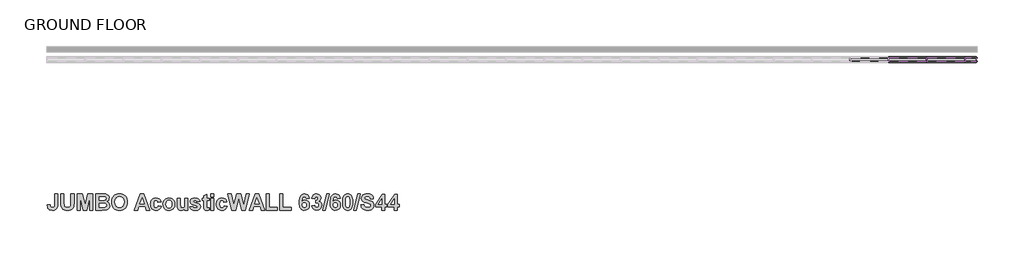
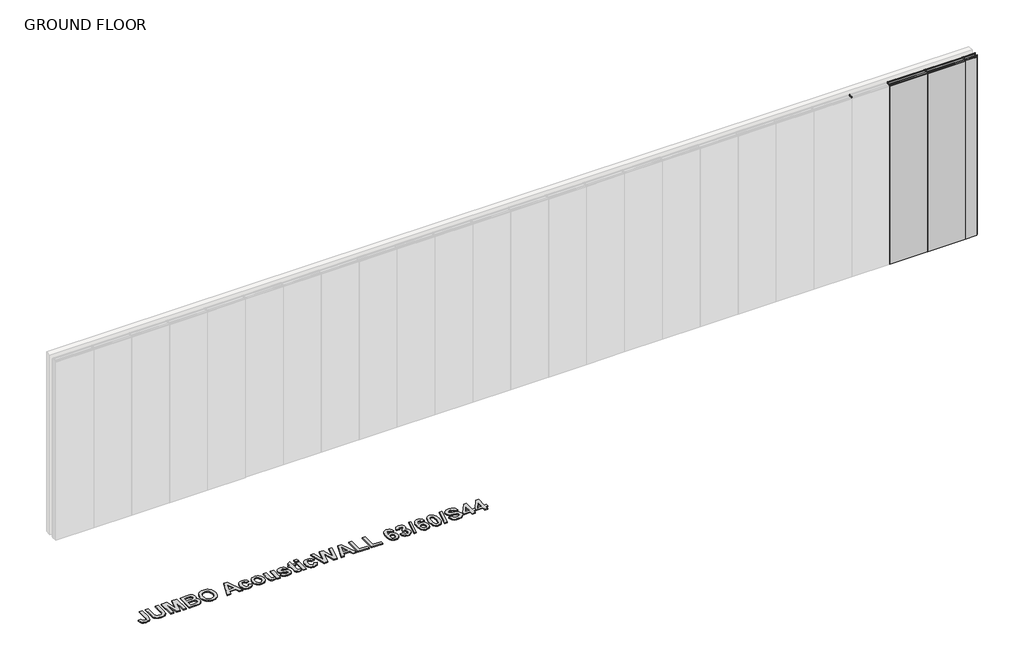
# One storey, part 2 of 2: 12 members, 3 plates, 1 proxy.
"""IFC4 building model written with IfcOpenShell, lengths in millimetres."""

from ifc_helpers import new_model, si_unit, origin, origin_with_axes, place, context, project, spatial, polyline, outline, extrude, transform, mapped, element, save
from components import rectangular_mullion_stud_mullion_63mm_b2ef130e, rectangular_mullion_stud_mullion_63mm_af775e70, rectangular_mullion_stud_mullion_63mm_c22ba0a2, rectangular_mullion_stud_mullion_63mm_ab3eab4e, rectangular_mullion_stud_mullion_63mm_06861ceb, rectangular_mullion_stud_mullion_63mm_08592bac, plate_2_layer_drywall_panels_2_layer_15mm_drywall_panels_7b1b0b35, plate_2_layer_drywall_panels_2_layer_15mm_drywall_panels_d108bd86

model = new_model("IFC4")

# Units and contexts
model_context = context("Model", 3, world=origin())
ifc_project = project(units=[si_unit("LENGTHUNIT", "METRE", prefix="MILLI")], contexts=[model_context])

# Site, building, storey
site = spatial("IfcSite", under=ifc_project)
building = spatial("IfcBuilding", under=site)
storey = spatial("IfcBuildingStorey", under=building, Name="GROUND FLOOR", Elevation=0.0)

# Proxy
placement = place(None, origin())
element("IfcBuildingElementProxy", 1, Name="600mm Arial", ObjectType="600mm Arial", at=placement, inside=storey, context=model_context, shape_type="SweptSolid", body=[
    extrude(outline(polyline([(61762.9500241, -39369.743976), (61811.5338051, -39369.743976), (61811.5338051, -39530.994051), (61810.1104521, -39558.9866592), (61805.8403932, -39579.7043522), (61795.149431, -39599.7261838), (61778.2589759, -39615.3830664), (61755.0741377, -39625.4888724), (61725.5000263, -39628.8574744), (61691.5293357, -39623.4566406), (61677.8651473, -39616.7055985), (61666.4150635, -39607.2541395), (61657.3530497, -39595.1892463), (61650.8530712, -39580.5979016), (61645.5392201, -39543.8358577), (61694.1230011, -39539.7872093), (61696.3529207, -39558.417318), (61701.1448757, -39570.6581534), (61712.5633294, -39580.9062947), (61728.726293, -39584.3223418), (61744.7073837, -39581.8710117), (61755.200658, -39574.5170215), (61761.0126826, -39559.4611102), (61762.9500241, -39533.9040171), (61762.9500241, -39369.743976)])), origin_with_axes(), (0.0, 0.0, 1.0), 15.0),
    extrude(outline(polyline([(61860.117586, -39369.743976), (61908.701367, -39369.743976), (61908.701367, -39507.3347619), (61910.7889513, -39549.8455702), (61916.8777389, -39563.8814119), (61927.9324469, -39574.8649522), (61943.9530752, -39581.9579944), (61964.9396238, -39584.3223418), (61985.9024499, -39582.0924222), (62000.9662687, -39575.4026633), (62010.6687913, -39565.4629151), (62015.547729, -39553.4830277), (62018.0148741, -39510.307988), (62018.0148741, -39369.743976), (62066.598655, -39369.743976), (62066.598655, -39503.539154), (62062.3602262, -39568.3807887), (62056.3346987, -39585.8326775), (62046.7349738, -39600.3587851), (62033.4266236, -39612.085632), (62016.2752205, -39621.1397383), (61994.2844173, -39626.9280404), (61966.457867, -39628.8574744), (61933.8630842, -39626.754075), (61910.2196101, -39620.4438769), (61893.0602995, -39610.7650768), (61879.9180071, -39598.5558714), (61870.682028, -39584.7493477), (61865.2416567, -39570.2785926), (61861.3986037, -39543.1716263), (61860.117586, -39505.6267383), (61860.117586, -39369.743976)])), origin_with_axes(), (0.0, 0.0, 1.0), 15.0),
    extrude(outline(polyline([(62115.182436, -39624.808826), (62115.182436, -39369.743976), (62198.432769, -39369.743976), (62238.6662126, -39543.7093374), (62278.8996562, -39369.743976), (62362.1499892, -39369.743976), (62362.1499892, -39624.808826), (62313.5662082, -39624.808826), (62311.541884, -39424.0211687), (62267.1332717, -39624.808826), (62210.2624136, -39624.808826), (62165.7905412, -39424.0211687), (62163.7662169, -39624.808826), (62115.182436, -39624.808826)])), origin_with_axes(), (0.0, 0.0, 1.0), 15.0),
    extrude(outline(polyline([(62410.7337701, -39369.743976), (62515.4292877, -39369.743976), (62561.7673339, -39372.2743812), (62589.0957107, -39382.8704532), (62600.1425112, -39392.2645828), (62609.1808025, -39404.3156378), (62615.20633, -39418.5096298), (62617.2148391, -39434.3325702), (62614.8188617, -39451.570956), (62607.6309292, -39467.3543588), (62596.3310883, -39480.5282812), (62581.5993851, -39489.9382257), (62600.2294939, -39499.0793147), (62613.9885724, -39512.9649136), (62622.4812451, -39530.6619353), (62625.312136, -39551.2372931), (62623.2799042, -39568.3254361), (62617.1832091, -39584.9233131), (62607.5676691, -39599.6312936), (62594.9789029, -39611.0497474), (62579.2666678, -39618.9493563), (62560.2807208, -39623.1008024), (62497.9062312, -39624.808826), (62410.7337701, -39624.808826), (62410.7337701, -39369.743976)]), holes=[polyline([(62459.3175511, -39414.2791085), (62459.3175511, -39470.9601863), (62496.3879881, -39470.9601863), (62537.5070735, -39470.1378046), (62550.4516779, -39467.1803934), (62560.3123509, -39461.3446463), (62566.5513814, -39452.9152338), (62568.6310582, -39442.1768265), (62566.836052, -39431.9049626), (62561.4510333, -39423.7364982), (62552.5392623, -39418.0193638), (62540.163999, -39415.1014902), (62491.8332586, -39414.2791085), (62459.3175511, -39414.2791085)]), polyline([(62459.3175511, -39515.4953188), (62459.3175511, -39580.2736934), (62510.6847778, -39580.2736934), (62548.7673769, -39578.7554503), (62560.0118653, -39575.3631257), (62568.9473589, -39569.1082802), (62574.783106, -39560.117434), (62576.728355, -39548.5171074), (62575.2259269, -39538.4587465), (62570.7186425, -39530.045149), (62553.3853665, -39518.974626), (62504.1689843, -39515.4953188), (62459.3175511, -39515.4953188)])]), origin_with_axes(), (0.0, 0.0, 1.0), 15.0),
    extrude(outline(polyline([(62657.7013233, -39498.8579042), (62660.5638442, -39463.0842999), (62669.1514071, -39433.5734486), (62679.2493055, -39415.1410278), (62692.4627655, -39398.6854861), (62707.9377752, -39385.2189856), (62724.8203227, -39375.7536884), (62750.0294851, -39368.2099178), (62778.844475, -39365.6953275), (62805.1369671, -39367.8758252), (62828.6618285, -39374.4173182), (62849.4190591, -39385.3198065), (62867.408659, -39400.58329), (62881.9387205, -39419.7293642), (62892.3173358, -39442.2796242), (62898.544505, -39468.23407), (62900.620228, -39497.5927016), (62898.56032, -39526.7516685), (62892.3805959, -39552.5499408), (62882.0810558, -39574.9875187), (62867.6616995, -39594.0644021), (62849.7907124, -39609.2863712), (62829.1362795, -39620.1592063), (62805.6984008, -39626.6829073), (62779.4770763, -39628.8574744), (62752.9789887, -39626.6927917), (62729.3434221, -39620.1987439), (62708.5703765, -39609.3753308), (62690.6598518, -39594.2225524), (62676.2404955, -39575.2741661), (62665.9409554, -39553.0639294), (62659.7612313, -39527.5918421), (62657.7013233, -39498.8579042)]), holes=[polyline([(62706.2851042, -39497.0866206), (62711.4487125, -39534.837104), (62717.9032227, -39549.8099864), (62726.9395371, -39562.1812958), (62750.3853234, -39578.7870803), (62779.4138162, -39584.3223418), (62808.3790489, -39578.8266179), (62831.6350547, -39562.3394461), (62840.5606639, -39549.9740673), (62846.936099, -39534.8608266), (62852.0364471, -39496.3907591), (62847.0705268, -39458.4979404), (62840.8631264, -39443.6792546), (62832.1727658, -39431.6123845), (62809.0511878, -39415.5759412), (62779.4138162, -39410.2304601), (62749.7131845, -39415.6392013), (62726.401826, -39431.865425), (62717.6007602, -39444.0548616), (62711.3142847, -39458.9882064), (62706.2851042, -39497.0866206)])]), origin_with_axes(), (0.0, 0.0, 1.0), 15.0),
    extrude(outline(polyline([(63252.8526399, -39624.808826), (63201.8017138, -39624.808826), (63181.8115123, -39568.1277482), (63085.4663321, -39568.1277482), (63065.7291711, -39624.808826), (63013.9823836, -39624.808826), (63107.1012971, -39369.743976), (63158.8480846, -39369.743976), (63252.8526399, -39624.808826)]), holes=[polyline([(63166.24952, -39523.5926156), (63133.4175117, -39430.4737021), (63101.0283244, -39523.5926156), (63166.24952, -39523.5926156)])]), origin_with_axes(), (0.0, 0.0, 1.0), 15.0),
    extrude(outline(polyline([(63430.9931701, -39491.2034283), (63382.4093891, -39499.3007252), (63378.6849489, -39486.941277), (63372.0663576, -39478.0769511), (63362.7908409, -39472.7393775), (63351.095624, -39470.9601863), (63335.691782, -39474.2971582), (63323.7672473, -39484.308074), (63316.1285864, -39502.131616), (63313.5823661, -39528.9064667), (63316.2313841, -39558.5912834), (63324.1784381, -39578.0595888), (63336.5853314, -39588.8296262), (63352.6138672, -39592.4196387), (63364.7519049, -39590.3715919), (63374.4702426, -39584.2274516), (63381.7214352, -39573.0699459), (63386.4580375, -39555.9818029), (63435.0418185, -39564.0790998), (63424.4062089, -39592.2219507), (63407.0492103, -39612.5047304), (63382.8126725, -39624.7692884), (63351.538445, -39628.8574744), (63332.7719316, -39627.2482948), (63316.0099736, -39622.420756), (63301.2525711, -39614.374858), (63288.499724, -39603.1106009), (63278.2179757, -39589.0035916), (63270.8738699, -39572.4294371), (63266.4674063, -39553.3881375), (63264.9985852, -39531.8796929), (63266.4575219, -39510.128092), (63270.8343323, -39490.9266653), (63278.1290162, -39474.2754125), (63288.3415737, -39460.1743339), (63301.0449988, -39448.9515912), (63315.8122857, -39440.9353464), (63332.6434345, -39436.1255995), (63351.538445, -39434.5223506), (63380.7804407, -39438.0253803), (63403.3484926, -39448.5344697), (63419.875202, -39466.2077689), (63430.9931701, -39491.2034283)])), origin_with_axes(), (0.0, 0.0, 1.0), 15.0),
    extrude(outline(polyline([(63459.333709, -39529.0329869), (63462.3306577, -39504.9387844), (63471.3215039, -39481.6195184), (63485.8001664, -39461.3999989), (63505.2605644, -39446.6050357), (63528.4928477, -39437.5430218), (63554.2871663, -39434.5223506), (63574.2793447, -39436.2343279), (63592.3776729, -39441.3702598), (63608.5821509, -39449.9301463), (63622.8927788, -39461.9139875), (63634.5860187, -39476.5152166), (63642.938333, -39492.9272669), (63647.9497215, -39511.1501385), (63649.6201843, -39531.1838314), (63647.9319296, -39551.3776515), (63642.8671653, -39569.7646041), (63634.4258915, -39586.3446892), (63622.6081082, -39601.1179067), (63608.2322433, -39613.2539676), (63592.1167249, -39621.9225825), (63574.2615528, -39627.1237514), (63554.666727, -39628.8574744), (63529.8924781, -39625.9712309), (63506.3043566, -39617.3125004), (63486.0611145, -39603.0710633), (63471.3215039, -39583.4367), (63462.3306577, -39558.6703585), (63459.333709, -39529.0329869)]), holes=[polyline([(63507.9174899, -39531.6899125), (63511.2781844, -39557.6661039), (63521.3602678, -39576.7627561), (63536.3766415, -39588.505418), (63554.5402068, -39592.4196387), (63572.687957, -39588.505418), (63587.6568856, -39576.7627561), (63597.6915239, -39557.5712137), (63601.0364034, -39531.3103517), (63597.6915239, -39505.6188308), (63587.6568856, -39486.6170688), (63572.687957, -39474.8744069), (63554.5402068, -39470.9601863), (63536.3766415, -39474.8744069), (63521.3602678, -39486.6170688), (63511.2781844, -39505.713721), (63507.9174899, -39531.6899125)])]), origin_with_axes(), (0.0, 0.0, 1.0), 15.0),
    extrude(outline(polyline([(63803.468824, -39624.808826), (63803.468824, -39597.4804492), (63792.2796883, -39610.5357588), (63778.0698812, -39620.4755069), (63761.8990101, -39626.7619825), (63744.8266822, -39628.8574744), (63727.9520421, -39626.8015201), (63712.8803158, -39620.6336573), (63700.6711104, -39610.7413542), (63692.3840332, -39597.5120792), (63687.6395233, -39579.7597048), (63686.0580201, -39556.2981036), (63686.0580201, -39438.570999), (63734.641801, -39438.570999), (63734.641801, -39524.6680379), (63737.2670965, -39573.0936685), (63746.8826364, -39587.2006778), (63764.6271033, -39592.4196387), (63776.25906, -39590.679985), (63786.609999, -39585.4610242), (63794.786371, -39577.6563055), (63799.8946266, -39568.1593782), (63803.468824, -39517.5829032), (63803.468824, -39438.570999), (63852.052605, -39438.570999), (63852.052605, -39624.808826), (63803.468824, -39624.808826)])), origin_with_axes(), (0.0, 0.0, 1.0), 15.0),
    extrude(outline(polyline([(63880.3931439, -39572.1763966), (63928.9769248, -39564.0790998), (63933.6028219, -39576.3199352), (63941.4075406, -39585.2079837), (63952.6599365, -39590.6167249), (63967.6288651, -39592.4196387), (63983.8709039, -39590.6958001), (63995.5265831, -39585.5242843), (64000.2710929, -39579.8941326), (64001.8525962, -39572.6192175), (63998.4998093, -39563.5097586), (63982.6215163, -39557.1204853), (63935.6983138, -39544.6898695), (63909.809105, -39533.3346759), (63893.8201068, -39515.3529835), (63888.4904407, -39491.519729), (63893.0609852, -39469.3312379), (63906.7726187, -39450.9699847), (63930.0997921, -39438.6342591), (63963.5169566, -39434.5223506), (63995.3842478, -39437.8435075), (64017.8574095, -39447.8069782), (64032.8658757, -39464.2862424), (64042.3390804, -39487.1547799), (63993.7552994, -39495.2520767), (63990.181102, -39484.8616002), (63984.3928, -39477.2229393), (63976.0424626, -39472.5258745), (63964.7821592, -39470.9601863), (63950.9440055, -39472.288649), (63941.6922112, -39476.2740373), (63937.0742216, -39486.1426178), (63941.6922112, -39494.9357761), (63984.6774705, -39508.5367044), (64015.9042529, -39518.3578398), (64036.0130672, -39530.2349294), (64046.8305497, -39545.907627), (64050.4363772, -39566.7360253), (64045.2095088, -39590.434852), (64029.5289037, -39610.5436663), (64017.8198488, -39618.5559573), (64003.6001574, -39624.2790223), (63967.6288651, -39628.8574744), (63934.3144984, -39625.0460514), (63908.7653128, -39613.6117827), (63890.8389731, -39595.6300903), (63880.3931439, -39572.1763966)])), origin_with_axes(), (0.0, 0.0, 1.0), 15.0),
    extrude(outline(polyline([(64184.0417748, -39438.570999), (64184.0417748, -39475.0088347), (64147.6039391, -39475.0088347), (64147.6039391, -39554.9063807), (64148.7109914, -39583.1520294), (64153.7401718, -39589.7943432), (64163.2924517, -39592.4196387), (64186.066099, -39587.7383889), (64188.0904232, -39622.2784207), (64169.3496093, -39627.2127109), (64148.2998005, -39628.8574744), (64123.7548695, -39624.3027449), (64107.7184262, -39612.5363605), (64100.6016614, -39592.9889798), (64099.0201581, -39557.6265664), (64099.0201581, -39475.0088347), (64074.7282677, -39475.0088347), (64074.7282677, -39438.570999), (64099.0201581, -39438.570999), (64099.0201581, -39402.1331633), (64147.6039391, -39373.7926244), (64147.6039391, -39438.570999), (64184.0417748, -39438.570999)])), origin_with_axes(), (0.0, 0.0, 1.0), 15.0),
    extrude(outline(polyline([(64212.3823137, -39414.2791085), (64212.3823137, -39369.743976), (64260.9660946, -39369.743976), (64260.9660946, -39414.2791085), (64212.3823137, -39414.2791085)])), origin_with_axes(), (0.0, 0.0, 1.0), 15.0),
    extrude(outline(polyline([(64212.3823137, -39624.808826), (64212.3823137, -39438.570999), (64260.9660946, -39438.570999), (64260.9660946, -39624.808826), (64212.3823137, -39624.808826)])), origin_with_axes(), (0.0, 0.0, 1.0), 15.0),
    extrude(outline(polyline([(64463.3985153, -39491.2034283), (64414.8147343, -39499.3007252), (64411.0902941, -39486.941277), (64404.4717028, -39478.0769511), (64395.196186, -39472.7393775), (64383.5009692, -39470.9601863), (64368.0971272, -39474.2971582), (64356.1725925, -39484.308074), (64348.5339316, -39502.131616), (64345.9877113, -39528.9064667), (64348.6367293, -39558.5912834), (64356.5837833, -39578.0595888), (64368.9906766, -39588.8296262), (64385.0192124, -39592.4196387), (64397.1572501, -39590.3715919), (64406.8755878, -39584.2274516), (64414.1267804, -39573.0699459), (64418.8633827, -39555.9818029), (64467.4471637, -39564.0790998), (64456.8115541, -39592.2219507), (64439.4545555, -39612.5047304), (64415.2180176, -39624.7692884), (64383.9437902, -39628.8574744), (64365.1772768, -39627.2482948), (64348.4153188, -39622.420756), (64333.6579163, -39614.374858), (64320.9050692, -39603.1106009), (64310.6233209, -39589.0035916), (64303.2792151, -39572.4294371), (64298.8727515, -39553.3881375), (64297.4039303, -39531.8796929), (64298.8628671, -39510.128092), (64303.2396775, -39490.9266653), (64310.5343614, -39474.2754125), (64320.7469189, -39460.1743339), (64333.450344, -39448.9515912), (64348.2176309, -39440.9353464), (64365.0487797, -39436.1255995), (64383.9437902, -39434.5223506), (64413.1857859, -39438.0253803), (64435.7538378, -39448.5344697), (64452.2805472, -39466.2077689), (64463.3985153, -39491.2034283)])), origin_with_axes(), (0.0, 0.0, 1.0), 15.0),
    extrude(outline(polyline([(65054.5011835, -39624.808826), (65003.4502574, -39624.808826), (64983.4600559, -39568.1277482), (64887.1148757, -39568.1277482), (64867.3777147, -39624.808826), (64815.6309272, -39624.808826), (64908.7498406, -39369.743976), (64960.4966282, -39369.743976), (65054.5011835, -39624.808826)]), holes=[polyline([(64967.8980635, -39523.5926156), (64935.0660553, -39430.4737021), (64902.676868, -39523.5926156), (64967.8980635, -39523.5926156)])]), origin_with_axes(), (0.0, 0.0, 1.0), 15.0),
    extrude(outline(polyline([(64543.8021423, -39624.808826), (64479.5931089, -39369.743976), (64529.4420925, -39369.743976), (64570.6876982, -39544.9745401), (64615.0330503, -39369.743976), (64680.3807661, -39369.743976), (64724.5363379, -39547.8845061), (64765.7819436, -39369.743976), (64815.6309272, -39369.743976), (64752.3707957, -39624.808826), (64694.8673362, -39624.808826), (64647.612018, -39434.1427898), (64599.4077979, -39624.808826), (64543.8021423, -39624.808826)])), origin_with_axes(), (0.0, 0.0, 1.0), 15.0),
    extrude(outline(polyline([(65078.793074, -39624.808826), (65078.793074, -39369.743976), (65127.3768549, -39369.743976), (65127.3768549, -39580.2736934), (65256.9336041, -39580.2736934), (65256.9336041, -39624.808826), (65078.793074, -39624.808826)])), origin_with_axes(), (0.0, 0.0, 1.0), 15.0),
    extrude(outline(polyline([(65293.3714398, -39624.808826), (65293.3714398, -39369.743976), (65341.9552208, -39369.743976), (65341.9552208, -39580.2736934), (65471.51197, -39580.2736934), (65471.51197, -39624.808826), (65293.3714398, -39624.808826)])), origin_with_axes(), (0.0, 0.0, 1.0), 15.0),
    extrude(outline(polyline([(65754.9173589, -39437.4323166), (65706.3335779, -39442.6196474), (65703.3603517, -39430.0229737), (65697.7302, -39421.2060929), (65689.7277934, -39416.0108546), (65679.6378024, -39414.2791085), (65666.0368742, -39417.639803), (65654.7133106, -39427.7218864), (65646.4104184, -39448.5581922), (65641.871504, -39484.1815537), (65661.8933356, -39468.1925555), (65686.2801162, -39462.8628894), (65714.1066666, -39468.5563013), (65737.6157129, -39485.6365368), (65753.6284337, -39511.715526), (65758.9660073, -39544.4051989), (65753.5098209, -39578.8424329), (65746.689588, -39593.232136), (65737.1412619, -39605.7358963), (65725.4499989, -39615.8515867), (65712.2009551, -39623.0770799), (65681.0295253, -39628.8574744), (65663.4985614, -39626.9913005), (65647.5965459, -39621.3927789), (65633.3234787, -39612.0619095), (65620.6793599, -39598.9986923), (65610.3284209, -39581.6851851), (65602.9348931, -39559.6034455), (65598.4987763, -39532.7534734), (65597.0200708, -39501.135269), (65598.5640134, -39468.6828215), (65603.1958411, -39441.1014042), (65610.915554, -39418.391017), (65621.7231521, -39400.55166), (65634.9978953, -39387.0732982), (65650.1190436, -39377.445897), (65667.086597, -39371.6694562), (65685.9005554, -39369.743976), (65711.2204231, -39374.077295), (65731.7641507, -39387.077252), (65746.6302816, -39408.3326561), (65754.9173589, -39437.4323166)]), holes=[polyline([(65645.6038517, -39543.3297766), (65648.2291472, -39560.7500353), (65656.1050335, -39573.6630097), (65667.3495219, -39581.6575088), (65680.0806234, -39584.3223418), (65691.9735281, -39582.1398673), (65701.7155883, -39575.5924437), (65708.2155668, -39564.0632847), (65710.3822263, -39546.9356041), (65708.049509, -39529.1832298), (65701.0513569, -39516.9186718), (65690.5580826, -39509.7781844), (65677.7399985, -39507.398022), (65665.3014751, -39509.6753867), (65654.9347211, -39516.5074809), (65647.9365691, -39527.7677843), (65645.6038517, -39543.3297766)])]), origin_with_axes(), (0.0, 0.0, 1.0), 15.0),
    extrude(outline(polyline([(65791.3551946, -39553.5146578), (65839.9389755, -39547.8845061), (65843.6871383, -39563.5097586), (65850.8829783, -39574.9598424), (65860.7357437, -39581.981717), (65872.4546831, -39584.3223418), (65885.0276342, -39581.6416938), (65895.4181108, -39573.5997495), (65902.3925403, -39561.0188909), (65904.7173501, -39544.7214995), (65902.5902282, -39529.3018425), (65896.2088624, -39517.4563829), (65886.7593803, -39509.9126122), (65875.4279093, -39507.398022), (65856.1335692, -39511.0038495), (65860.371998, -39470.9601863), (65874.2022442, -39469.2205327), (65884.3159577, -39462.9894097), (65890.5075431, -39453.1208292), (65892.5714049, -39440.4688029), (65891.0294392, -39429.7224881), (65886.4035421, -39421.3958733), (65879.2156096, -39416.0582997), (65869.987538, -39414.2791085), (65860.601316, -39416.3429703), (65852.685892, -39422.5345557), (65846.9213125, -39432.6957143), (65843.9876239, -39446.6682958), (65795.403843, -39439.3933807), (65800.962827, -39417.655618), (65808.7833608, -39400.7730704), (65819.5059531, -39387.8600961), (65833.7711127, -39378.0310532), (65850.7643655, -39371.8157453), (65869.6712373, -39369.743976), (65900.320771, -39375.4848329), (65913.1072251, -39382.6609041), (65924.2014706, -39392.7074037), (65936.916757, -39412.7292353), (65941.1551858, -39435.218212), (65938.8817749, -39451.1637189), (65932.0615419, -39465.4091097), (65920.6944871, -39477.9543846), (65904.7806103, -39488.7995433), (65924.6442915, -39496.3512215), (65940.0797636, -39509.6437567), (65949.9957892, -39527.5068363), (65953.3011311, -39548.770148), (65947.4416614, -39579.5382944), (65929.8632524, -39605.4195957), (65917.4267059, -39615.6736676), (65903.5549452, -39622.9980047), (65871.5057811, -39628.8574744), (65841.2437157, -39623.646421), (65816.6276171, -39608.0132611), (65799.4129538, -39583.9665036), (65791.3551946, -39553.5146578)])), origin_with_axes(), (0.0, 0.0, 1.0), 15.0),
    extrude(outline(polyline([(65968.6100829, -39624.808826), (66029.3398091, -39369.743976), (66066.6632866, -39369.743976), (66005.9335604, -39624.808826), (65968.6100829, -39624.808826)])), origin_with_axes(), (0.0, 0.0, 1.0), 15.0),
    extrude(outline(polyline([(66240.7551684, -39437.4323166), (66192.1713874, -39442.6196474), (66189.1981612, -39430.0229737), (66183.5680095, -39421.2060929), (66175.5656029, -39416.0108546), (66165.4756119, -39414.2791085), (66151.8746837, -39417.639803), (66140.5511201, -39427.7218864), (66132.2482279, -39448.5581922), (66127.7093135, -39484.1815537), (66147.7311451, -39468.1925555), (66172.1179257, -39462.8628894), (66199.9444761, -39468.5563013), (66223.4535224, -39485.6365368), (66239.4662432, -39511.715526), (66244.8038168, -39544.4051989), (66239.3476304, -39578.8424329), (66232.5273975, -39593.232136), (66222.9790714, -39605.7358963), (66211.2878084, -39615.8515867), (66198.0387646, -39623.0770799), (66166.8673348, -39628.8574744), (66149.3363709, -39626.9913005), (66133.4343554, -39621.3927789), (66119.1612882, -39612.0619095), (66106.5171694, -39598.9986923), (66096.1662304, -39581.6851851), (66088.7727026, -39559.6034455), (66084.3365858, -39532.7534734), (66082.8578803, -39501.135269), (66084.4018229, -39468.6828215), (66089.0336506, -39441.1014042), (66096.7533635, -39418.391017), (66107.5609616, -39400.55166), (66120.8357048, -39387.0732982), (66135.9568531, -39377.445897), (66152.9244065, -39371.6694562), (66171.738365, -39369.743976), (66197.0582326, -39374.077295), (66217.6019603, -39387.077252), (66232.4680911, -39408.3326561), (66240.7551684, -39437.4323166)]), holes=[polyline([(66131.4416612, -39543.3297766), (66134.0669567, -39560.7500353), (66141.942843, -39573.6630097), (66153.1873314, -39581.6575088), (66165.9184329, -39584.3223418), (66177.8113376, -39582.1398673), (66187.5533978, -39575.5924437), (66194.0533763, -39564.0632847), (66196.2200358, -39546.9356041), (66193.8873185, -39529.1832298), (66186.8891664, -39516.9186718), (66176.3958921, -39509.7781844), (66163.577808, -39507.398022), (66151.1392847, -39509.6753867), (66140.7725306, -39516.5074809), (66133.7743786, -39527.7677843), (66131.4416612, -39543.3297766)])]), origin_with_axes(), (0.0, 0.0, 1.0), 15.0),
    extrude(outline(polyline([(66358.1659723, -39369.743976), (66375.2976067, -39371.3887394), (66390.4444544, -39376.3230296), (66403.6065155, -39384.5468467), (66414.78379, -39396.0601906), (66425.4391684, -39414.1881721), (66433.0501529, -39437.4481316), (66437.6167437, -39465.8400694), (66439.1389406, -39499.3639853), (66437.6088361, -39532.8562711), (66433.0185229, -39561.2798389), (66425.3680007, -39584.6346887), (66414.6572697, -39602.9208205), (66403.5353478, -39614.2681065), (66390.4128243, -39622.3733109), (66375.2896992, -39627.2364335), (66358.1659723, -39628.8574744), (66340.8583957, -39627.0782832), (66325.3102416, -39621.7407096), (66311.5215098, -39612.8447536), (66299.4922004, -39600.3904152), (66289.736302, -39583.3694861), (66282.7678032, -39560.7737579), (66278.5867038, -39532.6032306), (66277.1930041, -39498.8579042), (66278.7231085, -39465.5316762), (66283.3134218, -39437.2267212), (66290.9639439, -39413.9430391), (66301.6746749, -39395.6806299), (66312.7965968, -39384.3333438), (66325.9191203, -39376.2281394), (66341.0422455, -39371.3650168), (66358.1659723, -39369.743976)]), holes=[polyline([(66358.1659723, -39414.2791085), (66341.9713787, -39419.6245896), (66335.6453655, -39427.0971926), (66330.9641158, -39438.8240395), (66327.0736177, -39462.9735947), (66325.776785, -39499.3639853), (66326.9312824, -39535.2720174), (66330.3947746, -39557.8479768), (66335.621643, -39571.1009744), (66342.0662689, -39579.0401208), (66358.1659723, -39584.3223418), (66374.360566, -39578.9768607), (66380.6865791, -39571.5042577), (66385.3678288, -39559.7774108), (66389.2583269, -39535.7543759), (66390.5551596, -39499.3639853), (66389.4006622, -39463.4954908), (66385.93717, -39440.9116238), (66380.7103017, -39427.6190887), (66374.2656758, -39419.6245896), (66358.1659723, -39414.2791085)])]), origin_with_axes(), (0.0, 0.0, 1.0), 15.0),
    extrude(outline(polyline([(66454.4478924, -39624.808826), (66515.1776186, -39369.743976), (66552.5010961, -39369.743976), (66491.7713699, -39624.808826), (66454.4478924, -39624.808826)])), origin_with_axes(), (0.0, 0.0, 1.0), 15.0),
    extrude(outline(polyline([(66564.6470414, -39539.7872093), (66613.2308223, -39535.7385609), (66620.315957, -39557.468416), (66632.2088617, -39572.5559574), (66648.9886116, -39581.3807457), (66670.7342818, -39584.3223418), (66693.3023337, -39581.7207689), (66709.5127424, -39573.9160502), (66719.2864327, -39562.6320243), (66722.5443295, -39549.5925297), (66717.1355882, -39534.378468), (66698.1891788, -39523.4660954), (66656.0579313, -39512.6486129), (66620.0945466, -39501.4673847), (66596.719928, -39487.7873812), (66578.7382356, -39464.4918378), (66572.7443382, -39436.6099349), (66575.4961539, -39417.8216759), (66583.7516011, -39400.2986194), (66597.194379, -39385.4166735), (66615.508187, -39374.551746), (66638.3925396, -39367.9094321), (66665.546951, -39365.6953275), (66707.5121407, -39371.214774), (66724.0526882, -39378.1140821), (66737.6318708, -39387.7731134), (66748.2931798, -39399.733232), (66756.0801066, -39413.535802), (66760.9926512, -39429.1808232), (66763.0308136, -39446.6682958), (66714.4470326, -39446.6682958), (66709.077829, -39429.9755286), (66699.8023122, -39418.7389478), (66685.7664705, -39412.357582), (66666.1162922, -39410.2304601), (66645.4302292, -39412.4920098), (66629.8049768, -39419.2766589), (66623.4473335, -39426.077123), (66621.3281191, -39434.8386512), (66623.2575531, -39443.1099134), (66629.0458552, -39450.0843429), (66645.8493276, -39458.2528074), (66676.6491041, -39466.6901274), (66709.5206499, -39475.4674706), (66732.5394302, -39484.6560047), (66748.6707637, -39495.7818804), (66760.8799691, -39510.3712482), (66768.5660751, -39528.6059811), (66771.1281104, -39550.6679519), (66768.0995316, -39571.7335757), (66759.0137952, -39591.4074765), (66744.3848898, -39607.9500009), (66724.726804, -39619.6214952), (66699.8260347, -39626.5484796), (66669.4690792, -39628.8574744), (66646.7665995, -39627.4360983), (66626.8633806, -39623.17197), (66609.7594226, -39616.0650897), (66595.4547254, -39606.1154571), (66583.850445, -39593.4416851), (66574.8477376, -39578.1623865), (66568.446603, -39560.2775612), (66564.6470414, -39539.7872093)])), origin_with_axes(), (0.0, 0.0, 1.0), 15.0),
    extrude(outline(polyline([(66892.5875628, -39624.808826), (66892.5875628, -39572.1763966), (66795.4200009, -39572.1763966), (66795.4200009, -39531.8796929), (66899.0400962, -39373.7926244), (66941.1713437, -39373.7926244), (66941.1713437, -39531.6899125), (66973.560531, -39531.6899125), (66973.560531, -39572.1763966), (66941.1713437, -39572.1763966), (66941.1713437, -39624.808826), (66892.5875628, -39624.808826)]), holes=[polyline([(66892.5875628, -39531.6899125), (66892.5875628, -39448.8191403), (66838.31037, -39531.6899125), (66892.5875628, -39531.6899125)])]), origin_with_axes(), (0.0, 0.0, 1.0), 15.0),
    extrude(outline(polyline([(67086.9226866, -39624.808826), (67086.9226866, -39572.1763966), (66989.7551247, -39572.1763966), (66989.7551247, -39531.8796929), (67093.37522, -39373.7926244), (67135.5064675, -39373.7926244), (67135.5064675, -39531.6899125), (67167.8956548, -39531.6899125), (67167.8956548, -39572.1763966), (67135.5064675, -39572.1763966), (67135.5064675, -39624.808826), (67086.9226866, -39624.808826)]), holes=[polyline([(67086.9226866, -39531.6899125), (67086.9226866, -39448.8191403), (67032.6454938, -39531.6899125), (67086.9226866, -39531.6899125)])]), origin_with_axes(), (0.0, 0.0, 1.0), 15.0),
])

# Members
rectangular_mullion_stud_mullion_63mm_shape = rectangular_mullion_stud_mullion_63mm_b2ef130e(model_context)
element("IfcMember", 2, ObjectType="Rectangular Mullion : Stud Mullion - 63mm", at=placement, inside=storey, context=model_context, shape_type="MappedRepresentation", body=[
    mapped(rectangular_mullion_stud_mullion_63mm_shape, transform((76216.5186508, -37259.4010443, 3000.0), x_axis=(0.0, 0.0, 1.0), y_axis=(0.0, -1.0, 0.0), z_axis=(1.0, 0.0, 0.0))),
])
rectangular_mullion_stud_mullion_63mm_2_shape = rectangular_mullion_stud_mullion_63mm_af775e70(model_context)
element("IfcMember", 3, ObjectType="Rectangular Mullion : Stud Mullion - 63mm", at=placement, inside=storey, context=model_context, shape_type="MappedRepresentation", body=[
    mapped(rectangular_mullion_stud_mullion_63mm_2_shape, transform((74254.5186511, -37259.4010443, 0.0), x_axis=(0.0, 0.0, -1.0), y_axis=(0.0, -1.0, 0.0), z_axis=(-1.0, 0.0, 0.0))),
])
element("IfcMember", 4, ObjectType="Rectangular Mullion : Stud Mullion - 63mm", at=placement, inside=storey, context=model_context, shape_type="MappedRepresentation", body=[
    mapped(rectangular_mullion_stud_mullion_63mm_2_shape, transform((74854.5186511, -37259.4010443, 0.0), x_axis=(0.0, 0.0, -1.0), y_axis=(0.0, -1.0, 0.0), z_axis=(-1.0, 0.0, 0.0))),
])
element("IfcMember", 5, ObjectType="Rectangular Mullion : Stud Mullion - 63mm", at=placement, inside=storey, context=model_context, shape_type="MappedRepresentation", body=[
    mapped(rectangular_mullion_stud_mullion_63mm_2_shape, transform((75454.5186511, -37259.4010443, 0.0), x_axis=(0.0, 0.0, -1.0), y_axis=(0.0, -1.0, 0.0), z_axis=(-1.0, 0.0, 0.0))),
])
rectangular_mullion_stud_mullion_63mm_3_shape = rectangular_mullion_stud_mullion_63mm_c22ba0a2(model_context)
element("IfcMember", 6, ObjectType="Rectangular Mullion : Stud Mullion - 63mm", at=placement, inside=storey, context=model_context, shape_type="MappedRepresentation", body=[
    mapped(rectangular_mullion_stud_mullion_63mm_3_shape, transform((76235.5186508, -37259.4010443, 0.0), x_axis=(1.0, 0.0, 0.0), y_axis=(0.0, -1.0, 0.0), z_axis=(0.0, 0.0, -1.0))),
])
rectangular_mullion_stud_mullion_63mm_4_shape = rectangular_mullion_stud_mullion_63mm_ab3eab4e(model_context)
element("IfcMember", 7, ObjectType="Rectangular Mullion : Stud Mullion - 63mm", at=placement, inside=storey, context=model_context, shape_type="MappedRepresentation", body=[
    mapped(rectangular_mullion_stud_mullion_63mm_4_shape, transform((75435.5186511, -37259.4010443, 3000.0), x_axis=(0.0, 0.0, 1.0), y_axis=(0.0, -1.0, 0.0), z_axis=(1.0, 0.0, 0.0))),
])
element("IfcMember", 8, ObjectType="Rectangular Mullion : Stud Mullion - 63mm", at=placement, inside=storey, context=model_context, shape_type="MappedRepresentation", body=[
    mapped(rectangular_mullion_stud_mullion_63mm_4_shape, transform((76035.5186511, -37259.4010443, 3000.0), x_axis=(0.0, 0.0, 1.0), y_axis=(0.0, -1.0, 0.0), z_axis=(1.0, 0.0, 0.0))),
])
rectangular_mullion_stud_mullion_63mm_5_shape = rectangular_mullion_stud_mullion_63mm_06861ceb(model_context)
element("IfcMember", 9, ObjectType="Rectangular Mullion : Stud Mullion - 63mm", at=placement, inside=storey, context=model_context, shape_type="MappedRepresentation", body=[
    mapped(rectangular_mullion_stud_mullion_63mm_5_shape, transform((76054.5186511, -37259.4010443, 0.0), x_axis=(0.0, 0.0, -1.0), y_axis=(0.0, -1.0, 0.0), z_axis=(-1.0, 0.0, 0.0))),
])
rectangular_mullion_stud_mullion_63mm_6_shape = rectangular_mullion_stud_mullion_63mm_08592bac(model_context)
element("IfcMember", 10, ObjectType="Rectangular Mullion : Stud Mullion - 63mm", at=placement, inside=storey, context=model_context, shape_type="MappedRepresentation", body=[
    mapped(rectangular_mullion_stud_mullion_63mm_6_shape, transform((74245.0186511, -37259.4010443, 0.0), x_axis=(1.0, 0.0, 0.0), y_axis=(0.0, -1.0, 0.0), z_axis=(0.0, 0.0, -1.0))),
])
element("IfcMember", 11, ObjectType="Rectangular Mullion : Stud Mullion - 63mm", at=placement, inside=storey, context=model_context, shape_type="MappedRepresentation", body=[
    mapped(rectangular_mullion_stud_mullion_63mm_6_shape, transform((74845.0186511, -37259.4010443, 0.0), x_axis=(1.0, 0.0, 0.0), y_axis=(0.0, -1.0, 0.0), z_axis=(0.0, 0.0, -1.0))),
])
element("IfcMember", 12, ObjectType="Rectangular Mullion : Stud Mullion - 63mm", at=placement, inside=storey, context=model_context, shape_type="MappedRepresentation", body=[
    mapped(rectangular_mullion_stud_mullion_63mm_6_shape, transform((75445.0186511, -37259.4010443, 0.0), x_axis=(1.0, 0.0, 0.0), y_axis=(0.0, -1.0, 0.0), z_axis=(0.0, 0.0, -1.0))),
])
element("IfcMember", 13, ObjectType="Rectangular Mullion : Stud Mullion - 63mm", at=placement, inside=storey, context=model_context, shape_type="MappedRepresentation", body=[
    mapped(rectangular_mullion_stud_mullion_63mm_6_shape, transform((76045.0186511, -37259.4010443, 0.0), x_axis=(1.0, 0.0, 0.0), y_axis=(0.0, -1.0, 0.0), z_axis=(0.0, 0.0, -1.0))),
])

# Plates
plate_2_layer_drywall_panels_2_layer_15mm_drywall_panels_shape = plate_2_layer_drywall_panels_2_layer_15mm_drywall_panels_7b1b0b35(model_context)
element("IfcPlate", 14, ObjectType="2 Layer - Drywall Panels : 2 Layer - 15mm Drywall Panels 93mm", at=placement, inside=storey, context=model_context, shape_type="MappedRepresentation", body=[
    mapped(plate_2_layer_drywall_panels_2_layer_15mm_drywall_panels_shape, transform((75136.3186511, -37259.4010443, 1.6), x_axis=(1.0, 0.0, 0.0), y_axis=(0.0, 1.0, 0.0), z_axis=(0.0, 0.0, 1.0))),
])
element("IfcPlate", 15, ObjectType="2 Layer - Drywall Panels : 2 Layer - 15mm Drywall Panels 93mm", at=placement, inside=storey, context=model_context, shape_type="MappedRepresentation", body=[
    mapped(plate_2_layer_drywall_panels_2_layer_15mm_drywall_panels_shape, transform((75736.3186511, -37259.4010443, 1.6), x_axis=(1.0, 0.0, 0.0), y_axis=(0.0, 1.0, 0.0), z_axis=(0.0, 0.0, 1.0))),
])
plate_2_layer_drywall_panels_2_layer_15mm_drywall_panels_2_shape = plate_2_layer_drywall_panels_2_layer_15mm_drywall_panels_d108bd86(model_context)
element("IfcPlate", 16, ObjectType="2 Layer - Drywall Panels : 2 Layer - 15mm Drywall Panels 93mm", at=placement, inside=storey, context=model_context, shape_type="MappedRepresentation", body=[
    mapped(plate_2_layer_drywall_panels_2_layer_15mm_drywall_panels_2_shape, transform((76126.818651, -37259.4010443, 1.6), x_axis=(1.0, 0.0, 0.0), y_axis=(0.0, 1.0, 0.0), z_axis=(0.0, 0.0, 1.0))),
])

save(model, "model.ifc")
